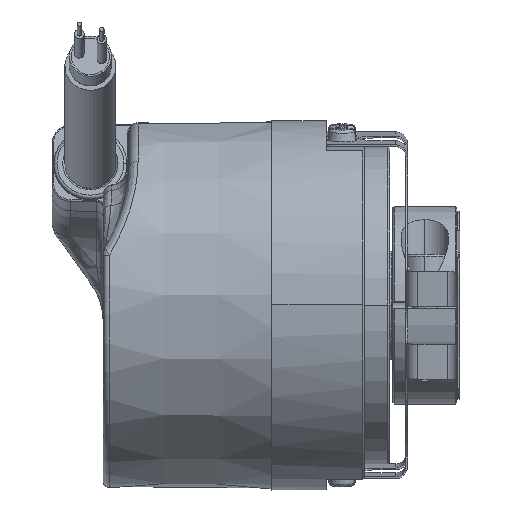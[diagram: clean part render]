
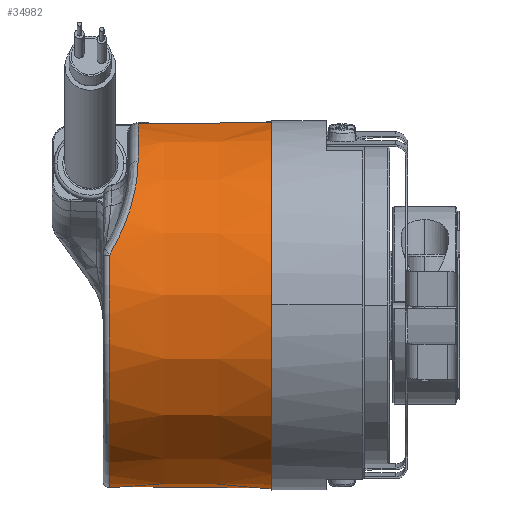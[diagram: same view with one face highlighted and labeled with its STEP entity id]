
A CAD part, top view. The second image highlights one B-rep face of the part: STEP entity #34982.
In plain terms, the highlighted conical face has half-angle 0.5 degrees and reference radius 29 mm.
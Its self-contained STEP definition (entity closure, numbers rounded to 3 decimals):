
#18094 = CARTESIAN_POINT ( 'NONE',  ( -18.009, 7.822, 27.59 ) ) ;
#18096 = DIRECTION ( 'NONE',  ( 0., 0.993, 0.122 ) ) ;
#18098 = DIRECTION ( 'NONE',  ( 1., 0., 0. ) ) ;
#18100 = CARTESIAN_POINT ( 'NONE',  ( -18.009, 0., 0. ) ) ;
#18102 = AXIS2_PLACEMENT_3D ( 'NONE', #18100, #18098, #18096 ) ;
#18104 = CIRCLE ( 'NONE', #18102, 28.677 ) ;
#18107 = CARTESIAN_POINT ( 'NONE',  ( -18.009, -28.463, -3.495 ) ) ;
#18138 = CARTESIAN_POINT ( 'NONE',  ( -13.513, 22.576, 17.747 ) ) ;
#18140 = CARTESIAN_POINT ( 'NONE',  ( -13.513, 28.502, 3.5 ) ) ;
#18142 = DIRECTION ( 'NONE',  ( 0., -0.993, -0.122 ) ) ;
#18144 = DIRECTION ( 'NONE',  ( 1., 0., 0. ) ) ;
#18145 = CARTESIAN_POINT ( 'NONE',  ( -13.513, 0., 0. ) ) ;
#18147 = AXIS2_PLACEMENT_3D ( 'NONE', #18145, #18144, #18142 ) ;
#18194 = CIRCLE ( 'NONE', #18147, 28.716 ) ;
#26531 = DIRECTION ( 'NONE',  ( 1., -0.009, -0.001 ) ) ;
#26532 = VECTOR ( 'NONE', #26531, 1000. ) ;
#26534 = CARTESIAN_POINT ( 'NONE',  ( 19., -28.784, -3.534 ) ) ;
#26535 = LINE ( 'NONE', #26534, #26532 ) ;
#26539 = CARTESIAN_POINT ( 'NONE',  ( 7.5, -28.684, -3.522 ) ) ;
#26552 = CARTESIAN_POINT ( 'NONE',  ( 7.5, 28.684, 3.522 ) ) ;
#26555 = DIRECTION ( 'NONE',  ( 1., 0.009, 0.001 ) ) ;
#26556 = VECTOR ( 'NONE', #26555, 1000. ) ;
#26558 = CARTESIAN_POINT ( 'NONE',  ( 19., 28.784, 3.534 ) ) ;
#26560 = LINE ( 'NONE', #26558, #26556 ) ;
#26982 = CARTESIAN_POINT ( 'NONE',  ( -14.374, 16.358, 23.605 ) ) ;
#26983 = CARTESIAN_POINT ( 'NONE',  ( -14.216, 16.981, 23.163 ) ) ;
#26984 = CARTESIAN_POINT ( 'NONE',  ( -14.016, 17.9, 22.453 ) ) ;
#26986 = CARTESIAN_POINT ( 'NONE',  ( -13.955, 18.204, 22.207 ) ) ;
#26988 = CARTESIAN_POINT ( 'NONE',  ( -13.846, 18.801, 21.705 ) ) ;
#26990 = CARTESIAN_POINT ( 'NONE',  ( -13.798, 19.095, 21.448 ) ) ;
#26991 = CARTESIAN_POINT ( 'NONE',  ( -13.587, 20.534, 20.134 ) ) ;
#26993 = CARTESIAN_POINT ( 'NONE',  ( -13.513, 21.6, 18.988 ) ) ;
#26994 = CARTESIAN_POINT ( 'NONE',  ( -13.513, 22.576, 17.747 ) ) ;
#27008 = B_SPLINE_CURVE_WITH_KNOTS ( 'NONE', 3,
 ( #26994, #26993, #26991, #26990, #26988, #26986, #26984, #26983, #26982, #27111, #27109, #27107, #27105, #27104, #27102, #27101 ),
 .UNSPECIFIED., .F., .F.,
 ( 4, 2, 2, 2, 2, 2, 2, 4 ),
 ( 0., 0.005, 0.006, 0.007, 0.009, 0.014, 0.016, 0.019 ),
 .UNSPECIFIED. ) ;
#27013 = DIRECTION ( 'NONE',  ( 0., -0.993, -0.122 ) ) ;
#27015 = DIRECTION ( 'NONE',  ( 1., 0., 0. ) ) ;
#27016 = AXIS2_PLACEMENT_3D ( 'NONE', #27022, #27015, #27013 ) ;
#27022 = CARTESIAN_POINT ( 'NONE',  ( 19., 0., 0. ) ) ;
#27023 = CONICAL_SURFACE ( 'NONE', #27016, 29., 0.009 ) ;
#27025 = FACE_OUTER_BOUND ( 'NONE', #34984, .T. ) ;
#27101 = CARTESIAN_POINT ( 'NONE',  ( -18.009, 7.822, 27.59 ) ) ;
#27102 = CARTESIAN_POINT ( 'NONE',  ( -17.619, 8.483, 27.406 ) ) ;
#27104 = CARTESIAN_POINT ( 'NONE',  ( -17.253, 9.148, 27.195 ) ) ;
#27105 = CARTESIAN_POINT ( 'NONE',  ( -16.572, 10.484, 26.715 ) ) ;
#27107 = CARTESIAN_POINT ( 'NONE',  ( -16.255, 11.157, 26.444 ) ) ;
#27109 = CARTESIAN_POINT ( 'NONE',  ( -15.389, 13.156, 25.549 ) ) ;
#27111 = CARTESIAN_POINT ( 'NONE',  ( -14.923, 14.459, 24.842 ) ) ;
#28048 = DIRECTION ( 'NONE',  ( 0., -0.993, -0.122 ) ) ;
#28049 = DIRECTION ( 'NONE',  ( 1., 0., 0. ) ) ;
#28051 = AXIS2_PLACEMENT_3D ( 'NONE', #28073, #28049, #28048 ) ;
#28052 = CIRCLE ( 'NONE', #28051, 28.9 ) ;
#28073 = CARTESIAN_POINT ( 'NONE',  ( 7.5, 0., 0. ) ) ;
#32612 = VERTEX_POINT ( 'NONE', #18107 ) ;
#32616 = EDGE_CURVE ( 'NONE', #32618, #32612, #18104, .T. ) ;
#32618 = VERTEX_POINT ( 'NONE', #18094 ) ;
#32632 = EDGE_CURVE ( 'NONE', #32633, #32634, #18194, .T. ) ;
#32633 = VERTEX_POINT ( 'NONE', #18140 ) ;
#32634 = VERTEX_POINT ( 'NONE', #18138 ) ;
#34818 = EDGE_CURVE ( 'NONE', #32633, #34820, #26560, .T. ) ;
#34820 = VERTEX_POINT ( 'NONE', #26552 ) ;
#34823 = VERTEX_POINT ( 'NONE', #26539 ) ;
#34827 = EDGE_CURVE ( 'NONE', #32612, #34823, #26535, .T. ) ;
#34982 = ADVANCED_FACE ( 'NONE', ( #27025 ), #27023, .T. ) ;
#34984 = EDGE_LOOP ( 'NONE', ( #34986, #34987, #34988, #34990, #34992, #34993 ) ) ;
#34986 = ORIENTED_EDGE ( 'NONE', *, *, #34818, .F. ) ;
#34987 = ORIENTED_EDGE ( 'NONE', *, *, #32632, .T. ) ;
#34988 = ORIENTED_EDGE ( 'NONE', *, *, #34989, .T. ) ;
#34989 = EDGE_CURVE ( 'NONE', #32634, #32618, #27008, .T. ) ;
#34990 = ORIENTED_EDGE ( 'NONE', *, *, #32616, .T. ) ;
#34992 = ORIENTED_EDGE ( 'NONE', *, *, #34827, .T. ) ;
#34993 = ORIENTED_EDGE ( 'NONE', *, *, #35073, .F. ) ;
#35073 = EDGE_CURVE ( 'NONE', #34820, #34823, #28052, .T. ) ;
